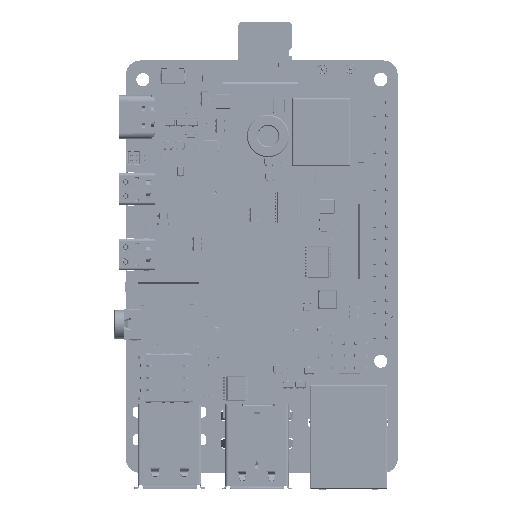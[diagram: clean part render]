
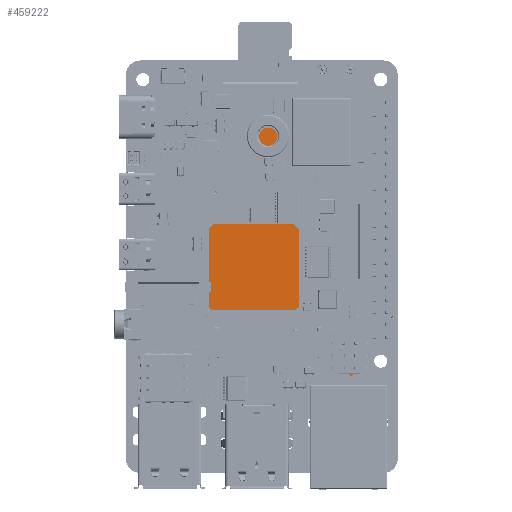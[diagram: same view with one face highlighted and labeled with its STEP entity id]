
A CAD part, top view. The second image highlights one B-rep face of the part: STEP entity #459222.
In plain terms, the highlighted planar face has unit normal (0, 0, 1).
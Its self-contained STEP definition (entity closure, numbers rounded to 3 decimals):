
#459093 = VERTEX_POINT('',#459094);
#459094 = CARTESIAN_POINT('',(22.479,28.766,2.2));
#459100 = EDGE_CURVE('',#459093,#459101,#459103,.T.);
#459101 = VERTEX_POINT('',#459102);
#459102 = CARTESIAN_POINT('',(22.479,-28.766,2.2));
#459103 = LINE('',#459104,#459105);
#459104 = CARTESIAN_POINT('',(22.479,28.766,2.2));
#459105 = VECTOR('',#459106,1.);
#459106 = DIRECTION('',(0.,-1.,0.));
#459131 = EDGE_CURVE('',#459101,#459132,#459134,.T.);
#459132 = VERTEX_POINT('',#459133);
#459133 = CARTESIAN_POINT('',(-22.479,-28.766,2.2));
#459134 = LINE('',#459135,#459136);
#459135 = CARTESIAN_POINT('',(22.479,-28.766,2.2));
#459136 = VECTOR('',#459137,1.);
#459137 = DIRECTION('',(-1.,0.,0.));
#459162 = EDGE_CURVE('',#459132,#459163,#459165,.T.);
#459163 = VERTEX_POINT('',#459164);
#459164 = CARTESIAN_POINT('',(-22.479,28.766,2.2));
#459165 = LINE('',#459166,#459167);
#459166 = CARTESIAN_POINT('',(-22.479,-28.766,2.2));
#459167 = VECTOR('',#459168,1.);
#459168 = DIRECTION('',(0.,1.,0.));
#459193 = EDGE_CURVE('',#459163,#459093,#459194,.T.);
#459194 = LINE('',#459195,#459196);
#459195 = CARTESIAN_POINT('',(-22.479,28.766,2.2));
#459196 = VECTOR('',#459197,1.);
#459197 = DIRECTION('',(1.,0.,0.));
#459222 = ADVANCED_FACE('',(#459223),#459229,.T.);
#459223 = FACE_BOUND('',#459224,.F.);
#459224 = EDGE_LOOP('',(#459225,#459226,#459227,#459228));
#459225 = ORIENTED_EDGE('',*,*,#459100,.T.);
#459226 = ORIENTED_EDGE('',*,*,#459131,.T.);
#459227 = ORIENTED_EDGE('',*,*,#459162,.T.);
#459228 = ORIENTED_EDGE('',*,*,#459193,.T.);
#459229 = PLANE('',#459230);
#459230 = AXIS2_PLACEMENT_3D('',#459231,#459232,#459233);
#459231 = CARTESIAN_POINT('',(22.479,28.766,2.2));
#459232 = DIRECTION('',(0.,0.,1.));
#459233 = DIRECTION('',(1.,0.,0.));
